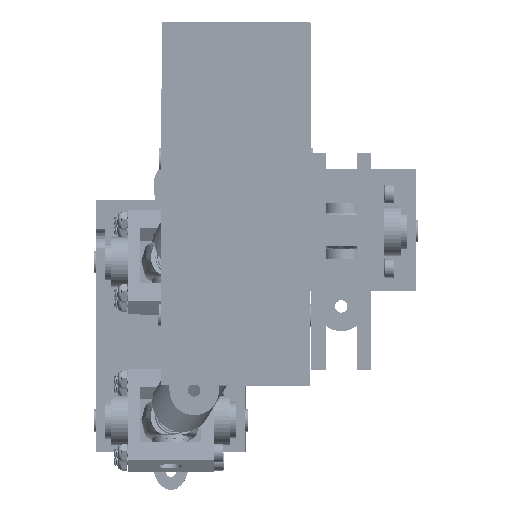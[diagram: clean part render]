
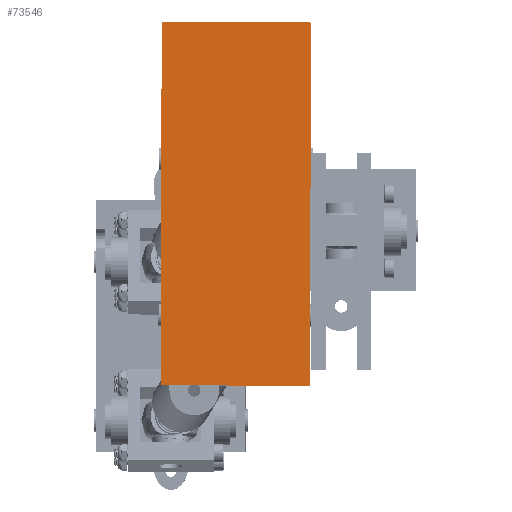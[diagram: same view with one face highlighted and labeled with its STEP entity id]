
A CAD part, top view. The second image highlights one B-rep face of the part: STEP entity #73546.
In plain terms, the highlighted planar face has unit normal (0, 0, 1) as drawn and (0, 0, -1) by its records, which use the part's own axes.
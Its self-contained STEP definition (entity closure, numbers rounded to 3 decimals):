
#8726=PLANE('',#79689);
#9694=FACE_OUTER_BOUND('',#14290,.T.);
#14290=EDGE_LOOP('',(#47890,#47891,#47892,#47893));
#19311=LINE('',#103214,#22928);
#19312=LINE('',#103216,#22929);
#19313=LINE('',#103218,#22930);
#19314=LINE('',#103219,#22931);
#22928=VECTOR('',#86356,10.);
#22929=VECTOR('',#86357,10.);
#22930=VECTOR('',#86358,10.);
#22931=VECTOR('',#86359,10.);
#28733=VERTEX_POINT('',#103212);
#28734=VERTEX_POINT('',#103213);
#28735=VERTEX_POINT('',#103215);
#28736=VERTEX_POINT('',#103217);
#36223=EDGE_CURVE('',#28733,#28734,#19311,.T.);
#36224=EDGE_CURVE('',#28733,#28735,#19312,.T.);
#36225=EDGE_CURVE('',#28736,#28735,#19313,.T.);
#36226=EDGE_CURVE('',#28734,#28736,#19314,.T.);
#47890=ORIENTED_EDGE('',*,*,#36223,.F.);
#47891=ORIENTED_EDGE('',*,*,#36224,.T.);
#47892=ORIENTED_EDGE('',*,*,#36225,.F.);
#47893=ORIENTED_EDGE('',*,*,#36226,.F.);
#73546=ADVANCED_FACE('',(#9694),#8726,.F.);
#79689=AXIS2_PLACEMENT_3D('',#103211,#86354,#86355);
#86354=DIRECTION('center_axis',(0.,0.,
1.));
#86355=DIRECTION('ref_axis',(1.,0.,0.));
#86356=DIRECTION('',(-0.004,1.,0.));
#86357=DIRECTION('',(-1.,-0.004,0.));
#86358=DIRECTION('',(0.004,-1.,0.));
#86359=DIRECTION('',(-1.,-0.004,0.));
#103211=CARTESIAN_POINT('Origin',(-294.285,598.91,87.055));
#103212=CARTESIAN_POINT('',(-282.094,556.92,87.055));
#103213=CARTESIAN_POINT('',(-282.306,615.498,87.055));
#103214=CARTESIAN_POINT('',(-282.281,608.798,87.055));
#103215=CARTESIAN_POINT('',(-306.173,556.833,87.055));
#103216=CARTESIAN_POINT('',(-300.153,556.855,87.055));
#103217=CARTESIAN_POINT('',(-306.385,615.411,87.055));
#103218=CARTESIAN_POINT('',(-306.361,608.711,87.055));
#103219=CARTESIAN_POINT('',(-294.345,615.455,87.055));
